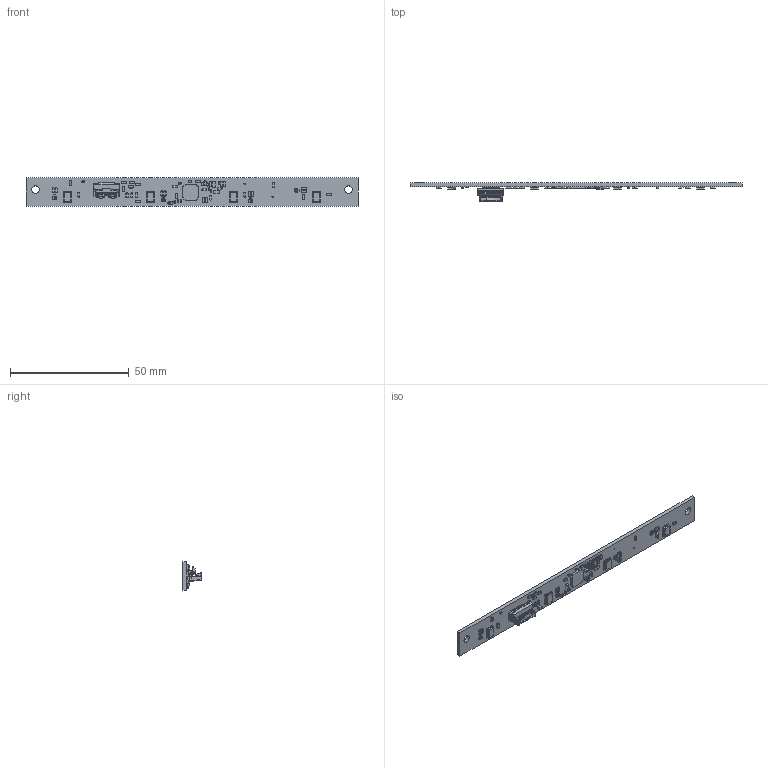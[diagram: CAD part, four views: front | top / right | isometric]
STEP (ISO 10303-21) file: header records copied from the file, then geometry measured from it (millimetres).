
FILE_DESCRIPTION((''),'2;1');
FILE_NAME('MIC_PCB_LINEAR_ASSY_ASM','2020-12-01T',('g6007893'),(''),'PRO/ENGINEER BY PARAMETRIC TECHNOLOGY CORPORATION, 2013320','PRO/ENGINEER BY PARAMETRIC TECHNOLOGY CORPORATION, 2013320','');
FILE_SCHEMA(('AUTOMOTIVE_DESIGN { 1 0 10303 214 1 1 1 1 }'));
Products named in the file (15): MIC_PCB_LINEAR; SPM0687LR5X_REV_1_SW; 5022311500; R-0402S0; UQFN-6X6-48MSH; ICT020; C-0805-H1_35; R-0603S0; C-0603S0; C-0201S1; C-0402S0; 96_1516T00-025-1201-1111_BOTTOM; 96_1516T00-025-1201-1111_TOP; 96_1516T00-025-1201-1111_ASM; MIC_PCB_LINEAR_ASSY_ASM
Assembly tree (73 placements, depth 3):
  MIC_PCB_LINEAR_ASSY_ASM
    MIC_PCB_LINEAR
    SPM0687LR5X_REV_1_SW  x4
    5022311500
    96_1516T00-025-1201-1111_ASM
      R-0402S0
      UQFN-6X6-48MSH
      ICT020  x2
      C-0805-H1_35  x2
      R-0603S0  x23
      C-0603S0  x13
      C-0201S1  x4
      C-0402S0  x18
      96_1516T00-025-1201-1111_BOTTOM
      96_1516T00-025-1201-1111_TOP
Bounding box: 140 x 7.65 x 12 mm (x, y, z)
Volume: 2972 mm3; surface area: 5228.7 mm2
Topology: 70 solids, 70 shells, 4523 faces, 20458 edges, 19872 vertices
Faces by surface type: plane 4083, cylinder 328, bspline 112
Entity records: 111877 total; most frequent: CARTESIAN_POINT 15820, DIRECTION 15053, VECTOR 10055, LINE 10055, PRESENTATION_STYLE_ASSIGNMENT 8054, STYLED_ITEM 8018, CURVE_STYLE 8016, ORIENTED_EDGE 7540
